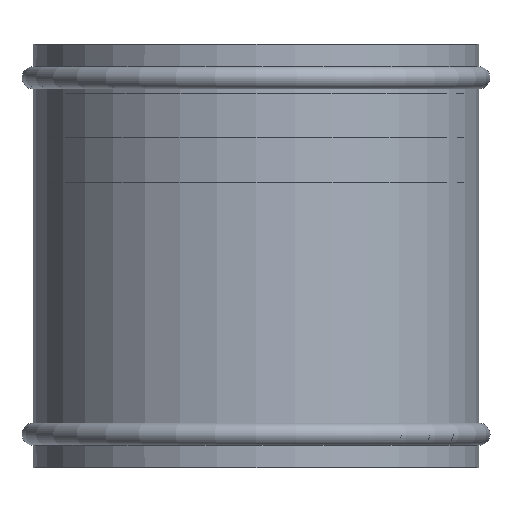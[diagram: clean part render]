
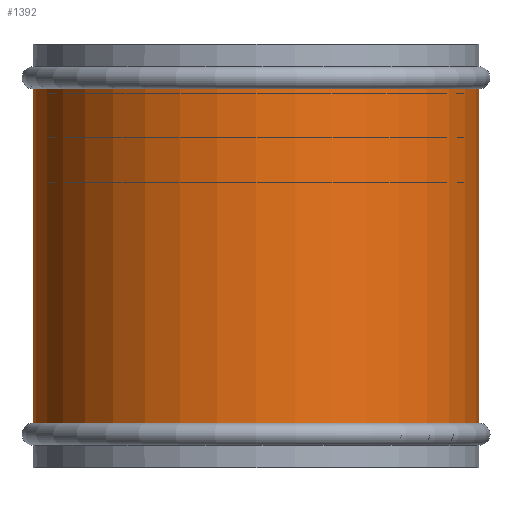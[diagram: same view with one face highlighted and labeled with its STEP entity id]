
A CAD part, front view. The second image highlights one B-rep face of the part: STEP entity #1392.
In plain terms, the highlighted cylindrical face has radius 200 mm (diameter 400 mm), a partial arc.
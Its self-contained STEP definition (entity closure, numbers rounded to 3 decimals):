
#38=B_SPLINE_CURVE_WITH_KNOTS('',3,(#2410,#2411,#2412,#2413,#2414,#2415,
#2416,#2417,#2418,#2419),.UNSPECIFIED.,.F.,.F.,(4,2,2,2,4),(0.,0.187,
0.374,0.626,0.878),.UNSPECIFIED.);
#39=B_SPLINE_CURVE_WITH_KNOTS('',3,(#2438,#2439,#2440,#2441,#2442,#2443,
#2444,#2445,#2446,#2447),.UNSPECIFIED.,.F.,.F.,(4,2,2,2,4),(2.61,
2.862,3.115,3.301,3.488),
 .UNSPECIFIED.);
#40=B_SPLINE_CURVE_WITH_KNOTS('',3,(#2453,#2454,#2455,#2456,#2457,#2458,
#2459,#2460,#2461,#2462),.UNSPECIFIED.,.F.,.F.,(4,2,2,2,4),(1.745,
1.932,2.119,2.371,2.623),
 .UNSPECIFIED.);
#41=B_SPLINE_CURVE_WITH_KNOTS('',3,(#2468,#2469,#2470,#2471,#2472,#2473,
#2474,#2475,#2476,#2477),.UNSPECIFIED.,.F.,.F.,(4,2,2,2,4),(0.866,
1.118,1.37,1.557,1.744),
 .UNSPECIFIED.);
#130=LINE('',#2481,#218);
#131=LINE('',#2501,#219);
#218=VECTOR('',#1994,10.);
#219=VECTOR('',#2025,10.);
#311=CYLINDRICAL_SURFACE('',#1587,200.);
#411=FACE_OUTER_BOUND('',#525,.T.);
#525=EDGE_LOOP('',(#878,#879,#880,#881,#882,#883,#884,#885));
#878=ORIENTED_EDGE('',*,*,#1074,.F.);
#879=ORIENTED_EDGE('',*,*,#1062,.T.);
#880=ORIENTED_EDGE('',*,*,#1071,.T.);
#881=ORIENTED_EDGE('',*,*,#1052,.F.);
#882=ORIENTED_EDGE('',*,*,#1078,.F.);
#883=ORIENTED_EDGE('',*,*,#1068,.T.);
#884=ORIENTED_EDGE('',*,*,#1080,.T.);
#885=ORIENTED_EDGE('',*,*,#1065,.F.);
#1052=EDGE_CURVE('',#1180,#1181,#38,.F.);
#1062=EDGE_CURVE('',#1185,#1186,#39,.T.);
#1065=EDGE_CURVE('',#1187,#1188,#40,.F.);
#1068=EDGE_CURVE('',#1189,#1190,#41,.T.);
#1071=EDGE_CURVE('',#1186,#1181,#130,.T.);
#1074=EDGE_CURVE('',#1185,#1187,#1270,.T.);
#1078=EDGE_CURVE('',#1189,#1180,#1274,.T.);
#1080=EDGE_CURVE('',#1190,#1188,#131,.T.);
#1180=VERTEX_POINT('',#2408);
#1181=VERTEX_POINT('',#2409);
#1185=VERTEX_POINT('',#2436);
#1186=VERTEX_POINT('',#2437);
#1187=VERTEX_POINT('',#2451);
#1188=VERTEX_POINT('',#2452);
#1189=VERTEX_POINT('',#2466);
#1190=VERTEX_POINT('',#2467);
#1270=CIRCLE('',#1576,200.);
#1274=CIRCLE('',#1582,200.);
#1392=ADVANCED_FACE('',(#411),#311,.T.);
#1576=AXIS2_PLACEMENT_3D('',#2488,#2005,#2006);
#1582=AXIS2_PLACEMENT_3D('',#2496,#2017,#2018);
#1587=AXIS2_PLACEMENT_3D('',#2503,#2028,#2029);
#1994=DIRECTION('',(0.,0.,1.));
#2005=DIRECTION('center_axis',(0.,0.,-1.));
#2006=DIRECTION('ref_axis',(-1.,0.,0.));
#2017=DIRECTION('center_axis',(0.,0.,1.));
#2018=DIRECTION('ref_axis',(-1.,0.,0.));
#2025=DIRECTION('',(0.,0.,-1.));
#2028=DIRECTION('center_axis',(0.,0.,1.));
#2029=DIRECTION('ref_axis',(-1.,0.,0.));
#2408=CARTESIAN_POINT('',(128.333,153.397,150.));
#2409=CARTESIAN_POINT('',(133.333,149.071,145.));
#2410=CARTESIAN_POINT('Ctrl Pts',(133.333,149.071,145.));
#2411=CARTESIAN_POINT('Ctrl Pts',(133.333,149.071,145.623));
#2412=CARTESIAN_POINT('Ctrl Pts',(133.21,149.182,146.269));
#2413=CARTESIAN_POINT('Ctrl Pts',(132.75,149.592,147.426));
#2414=CARTESIAN_POINT('Ctrl Pts',(132.415,149.889,147.938));
#2415=CARTESIAN_POINT('Ctrl Pts',(131.572,150.63,148.878));
#2416=CARTESIAN_POINT('Ctrl Pts',(130.968,151.156,149.308));
#2417=CARTESIAN_POINT('Ctrl Pts',(129.672,152.27,149.869));
#2418=CARTESIAN_POINT('Ctrl Pts',(128.978,152.857,150.));
#2419=CARTESIAN_POINT('Ctrl Pts',(128.333,153.397,150.));
#2436=CARTESIAN_POINT('',(128.333,153.397,-150.));
#2437=CARTESIAN_POINT('',(133.333,149.071,-145.));
#2438=CARTESIAN_POINT('Ctrl Pts',(128.333,153.397,-150.));
#2439=CARTESIAN_POINT('Ctrl Pts',(128.978,152.857,-150.));
#2440=CARTESIAN_POINT('Ctrl Pts',(129.672,152.27,-149.869));
#2441=CARTESIAN_POINT('Ctrl Pts',(130.968,151.156,-149.308));
#2442=CARTESIAN_POINT('Ctrl Pts',(131.572,150.63,-148.878));
#2443=CARTESIAN_POINT('Ctrl Pts',(132.415,149.889,-147.938));
#2444=CARTESIAN_POINT('Ctrl Pts',(132.75,149.592,-147.426));
#2445=CARTESIAN_POINT('Ctrl Pts',(133.21,149.182,-146.269));
#2446=CARTESIAN_POINT('Ctrl Pts',(133.333,149.071,-145.623));
#2447=CARTESIAN_POINT('Ctrl Pts',(133.333,149.071,-145.));
#2451=CARTESIAN_POINT('',(-128.333,153.397,-150.));
#2452=CARTESIAN_POINT('',(-133.333,149.071,-145.));
#2453=CARTESIAN_POINT('Ctrl Pts',(-133.333,149.071,-145.));
#2454=CARTESIAN_POINT('Ctrl Pts',(-133.333,149.071,-145.623));
#2455=CARTESIAN_POINT('Ctrl Pts',(-133.21,149.182,-146.269));
#2456=CARTESIAN_POINT('Ctrl Pts',(-132.75,149.592,-147.426));
#2457=CARTESIAN_POINT('Ctrl Pts',(-132.415,149.889,-147.938));
#2458=CARTESIAN_POINT('Ctrl Pts',(-131.572,150.63,-148.878));
#2459=CARTESIAN_POINT('Ctrl Pts',(-130.968,151.156,-149.308));
#2460=CARTESIAN_POINT('Ctrl Pts',(-129.672,152.27,-149.869));
#2461=CARTESIAN_POINT('Ctrl Pts',(-128.978,152.857,-150.));
#2462=CARTESIAN_POINT('Ctrl Pts',(-128.333,153.397,-150.));
#2466=CARTESIAN_POINT('',(-128.333,153.397,150.));
#2467=CARTESIAN_POINT('',(-133.333,149.071,145.));
#2468=CARTESIAN_POINT('Ctrl Pts',(-128.333,153.397,150.));
#2469=CARTESIAN_POINT('Ctrl Pts',(-128.978,152.857,150.));
#2470=CARTESIAN_POINT('Ctrl Pts',(-129.672,152.27,149.869));
#2471=CARTESIAN_POINT('Ctrl Pts',(-130.968,151.156,149.308));
#2472=CARTESIAN_POINT('Ctrl Pts',(-131.572,150.63,148.878));
#2473=CARTESIAN_POINT('Ctrl Pts',(-132.415,149.889,147.938));
#2474=CARTESIAN_POINT('Ctrl Pts',(-132.75,149.592,147.426));
#2475=CARTESIAN_POINT('Ctrl Pts',(-133.21,149.182,146.269));
#2476=CARTESIAN_POINT('Ctrl Pts',(-133.333,149.071,145.623));
#2477=CARTESIAN_POINT('Ctrl Pts',(-133.333,149.071,145.));
#2481=CARTESIAN_POINT('',(133.333,149.071,0.));
#2488=CARTESIAN_POINT('Origin',(0.,0.,-150.));
#2496=CARTESIAN_POINT('Origin',(0.,0.,150.));
#2501=CARTESIAN_POINT('',(-133.333,149.071,0.));
#2503=CARTESIAN_POINT('Origin',(0.,0.,0.));
